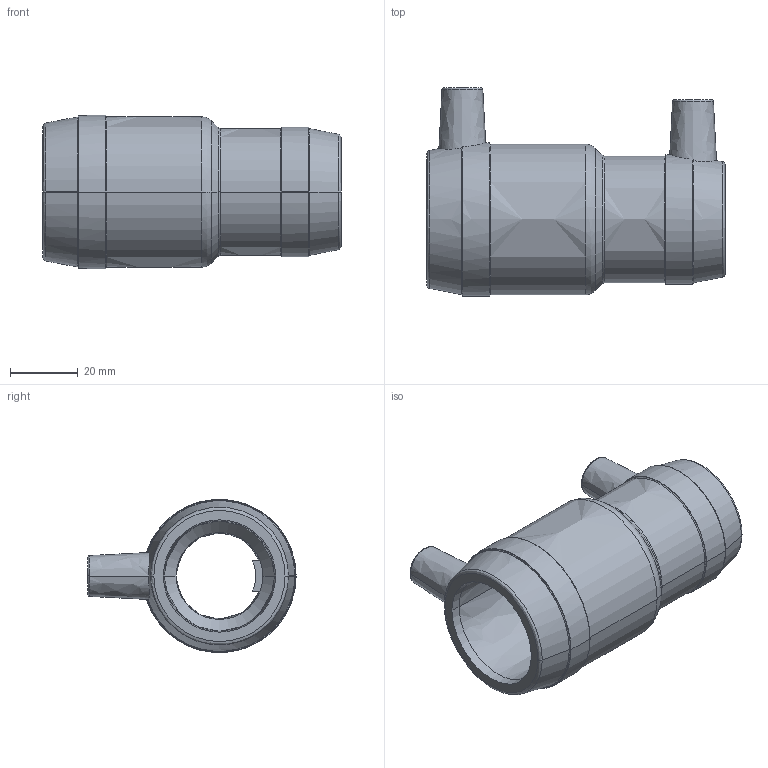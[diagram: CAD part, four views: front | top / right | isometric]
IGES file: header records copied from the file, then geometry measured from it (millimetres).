
Start section:  PTC IGES file: mr_d032-025_01.igs
Global section: file name: mr_d032-025_01.igs; native system: Pro/ENGINEER by Parametric Technology Corporation; preprocessor: 2011490; author: mtunjic; organization: Unknown; date: 20130816.155405; units: millimetre
Bounding box: 88 x 61.4 x 45.2 mm (x, y, z)
Surface area: 22089.7 mm2 (no closed solid volume)
Topology: 0 solids, 0 shells, 184 faces, 926 edges, 926 vertices
Faces by surface type: bspline 184
